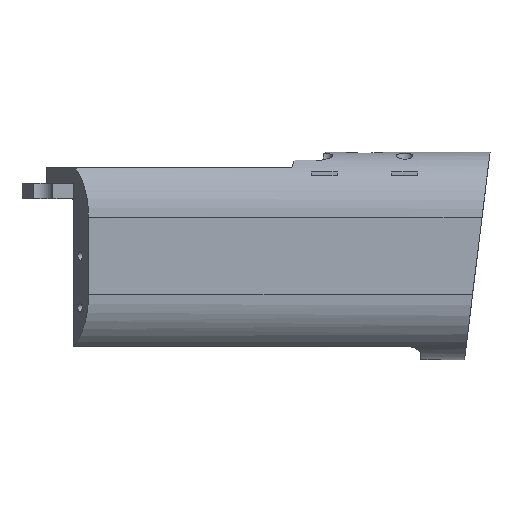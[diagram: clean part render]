
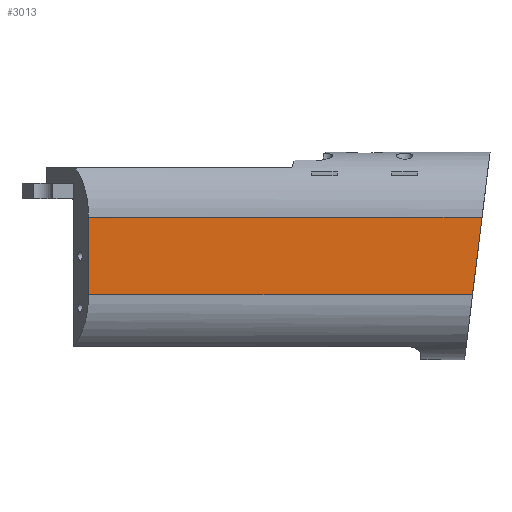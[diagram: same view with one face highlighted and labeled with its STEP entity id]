
A CAD part, left-side view. The second image highlights one B-rep face of the part: STEP entity #3013.
In plain terms, the highlighted planar face has unit normal (-1, 0, 0).
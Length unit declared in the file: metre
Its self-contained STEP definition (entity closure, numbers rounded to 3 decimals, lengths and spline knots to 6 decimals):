
#3013 = ADVANCED_FACE( '', ( #6407 ), #6408, .F. );
#6407 = FACE_OUTER_BOUND( '', #10326, .T. );
#6408 = PLANE( '', #10327 );
#10326 = EDGE_LOOP( '', ( #19430, #19431, #19432, #19433 ) );
#10327 = AXIS2_PLACEMENT_3D( '', #19434, #19435, #19436 );
#19430 = ORIENTED_EDGE( '', *, *, #27424, .F. );
#19431 = ORIENTED_EDGE( '', *, *, #27425, .T. );
#19432 = ORIENTED_EDGE( '', *, *, #26678, .T. );
#19433 = ORIENTED_EDGE( '', *, *, #24776, .T. );
#19434 = CARTESIAN_POINT( '', ( -0.0325, 0.007111, 0.08 ) );
#19435 = DIRECTION( '', ( 1., 0., 0. ) );
#19436 = DIRECTION( '', ( 0., 1., 0. ) );
#24776 = EDGE_CURVE( '', #30447, #30445, #30448, .T. );
#26678 = EDGE_CURVE( '', #33392, #30447, #33393, .T. );
#27424 = EDGE_CURVE( '', #34377, #30445, #34378, .T. );
#27425 = EDGE_CURVE( '', #34377, #33392, #34379, .F. );
#30445 = VERTEX_POINT( '', #38609 );
#30447 = VERTEX_POINT( '', #38611 );
#30448 = LINE( '', #38612, #38613 );
#33392 = VERTEX_POINT( '', #43262 );
#33393 = LINE( '', #43263, #43264 );
#34377 = VERTEX_POINT( '', #44851 );
#34378 = LINE( '', #44852, #44853 );
#34379 = LINE( '', #44854, #44855 );
#38609 = CARTESIAN_POINT( '', ( -0.0325, -0.084023, 0.025 ) );
#38611 = CARTESIAN_POINT( '', ( -0.0325, 0.064125, 0.025 ) );
#38612 = CARTESIAN_POINT( '', ( -0.0325, 0.007111, 0.025 ) );
#38613 = VECTOR( '', #47461, 1. );
#43262 = CARTESIAN_POINT( '', ( -0.0325, 0.064125, 0.055 ) );
#43263 = CARTESIAN_POINT( '', ( -0.0325, 0.064125, 0.08 ) );
#43264 = VECTOR( '', #48876, 1. );
#44851 = CARTESIAN_POINT( '', ( -0.0325, -0.087706, 0.055 ) );
#44852 = CARTESIAN_POINT( '', ( -0.0325, -0.089322, 0.068159 ) );
#44853 = VECTOR( '', #49366, 1. );
#44854 = CARTESIAN_POINT( '', ( -0.0325, 0.064125, 0.055 ) );
#44855 = VECTOR( '', #49367, 1. );
#47461 = DIRECTION( '', ( 0., -1., 0. ) );
#48876 = DIRECTION( '', ( 0., 0., -1. ) );
#49366 = DIRECTION( '', ( 0., 0.122, -0.993 ) );
#49367 = DIRECTION( '', ( 0., -1., 0. ) );
